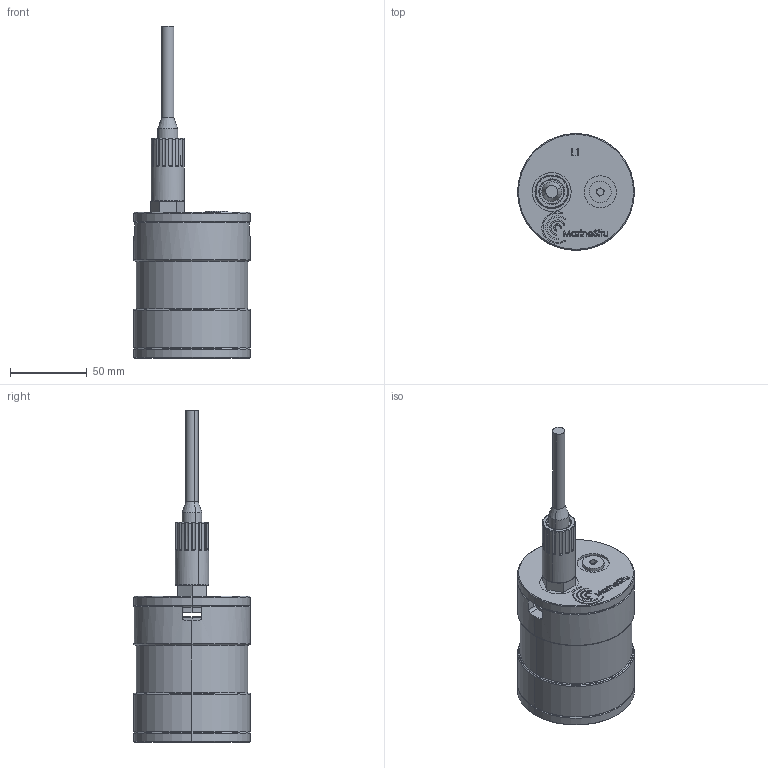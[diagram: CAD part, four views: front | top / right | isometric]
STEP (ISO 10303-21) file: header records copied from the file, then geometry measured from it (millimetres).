
FILE_DESCRIPTION (( 'STEP AP214' ), '1' );
FILE_NAME ('L1, Simple, MarineSitu.STEP', '2026-05-08T18:52:08', ( '' ), ( '' ), 'SwSTEP 2.0', 'SolidWorks 2020', '' );
FILE_SCHEMA (( 'AUTOMOTIVE_DESIGN' ));
Length unit declared in the file: metre
Products named in the file (1): L1, Simple, MarineSitu
Bounding box: 76.2 x 76.2 x 217 mm (x, y, z)
Surface area: 49976 mm2 (no closed solid volume)
Topology: 0 solids, 16 shells, 364 faces, 2604 edges, 2082 vertices
Faces by surface type: plane 134, cylinder 101, bspline 70, cone 32, torus 27
Entity records: 32346 total; most frequent: CARTESIAN_POINT 9929, DIRECTION 3524, ORIENTED_EDGE 3471, EDGE_CURVE 2574, VERTEX_POINT 2082, AXIS2_PLACEMENT_3D 1196, LINE 1132, VECTOR 1132
